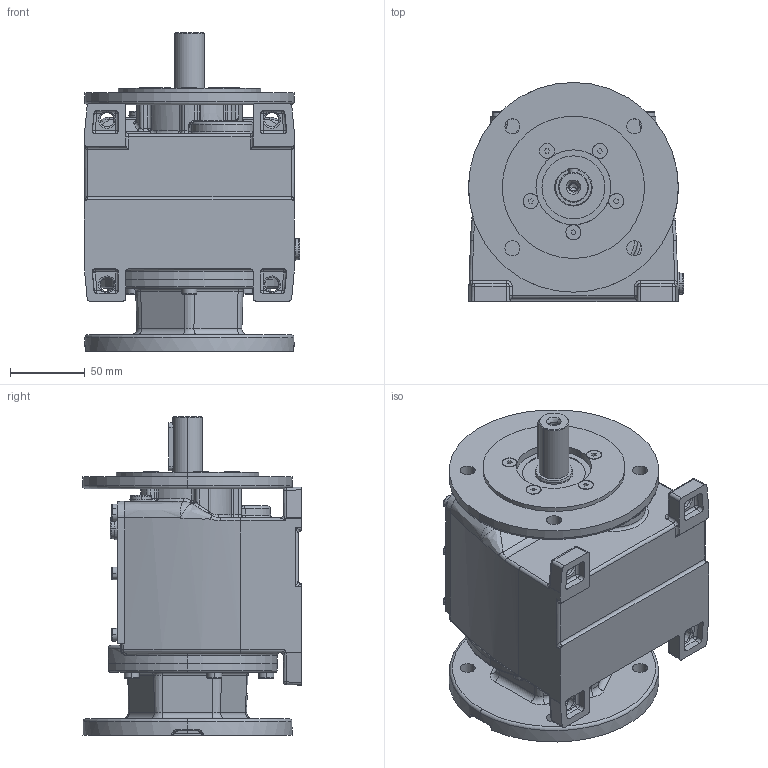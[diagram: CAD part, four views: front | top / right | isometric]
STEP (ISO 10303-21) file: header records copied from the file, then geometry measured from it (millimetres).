
FILE_DESCRIPTION (( 'STEP AP214' ), '1' );
FILE_NAME ('MTC22A-90-115+VP.STEP', '2006-05-03T10:19:44', ( '' ), ( '' ), 'SwSTEP 2.0', 'SolidWorks 2004146', '' );
FILE_SCHEMA (( 'AUTOMOTIVE_DESIGN' ));
Length unit declared in the file: millimetre
Products named in the file (6): Výst_pøíruba MTC_A_MTC2_A; pøíruba d55 MRT60a_pøíruba 95-115-140; Skrin MTC2_A_MTC22_AP90; D6912_Šroub DIN 6912 - M6x20; D7991_Šroub DIN 7991 - M5 x 16; MTC22A-90-115+VP
Assembly tree (14 placements, depth 2):
  MTC22A-90-115+VP
    D6912_Šroub DIN 6912 - M6x20  x6
    D7991_Šroub DIN 7991 - M5 x 16  x5
    pøíruba d55 MRT60a_pøíruba 95-115-140
    Skrin MTC2_A_MTC22_AP90
    Výst_pøíruba MTC_A_MTC2_A
Bounding box: 143.57 x 146 x 212.5 mm (x, y, z)
Volume: 2070370.9 mm3; surface area: 197781.8 mm2
Topology: 14 solids, 14 shells, 1561 faces, 3620 edges, 2107 vertices
Faces by surface type: plane 410, cylinder 373, torus 359, cone 239, bspline 154, sphere 26
Entity records: 126884 total; most frequent: CARTESIAN_POINT 93674, DIRECTION 6543, ORIENTED_EDGE 6164, EDGE_CURVE 3082, AXIS2_PLACEMENT_3D 2747, VERTEX_POINT 1853, CIRCLE 1584, EDGE_LOOP 1411
